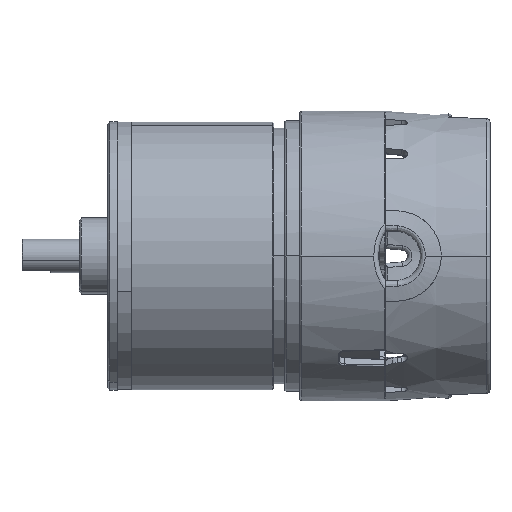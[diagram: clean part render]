
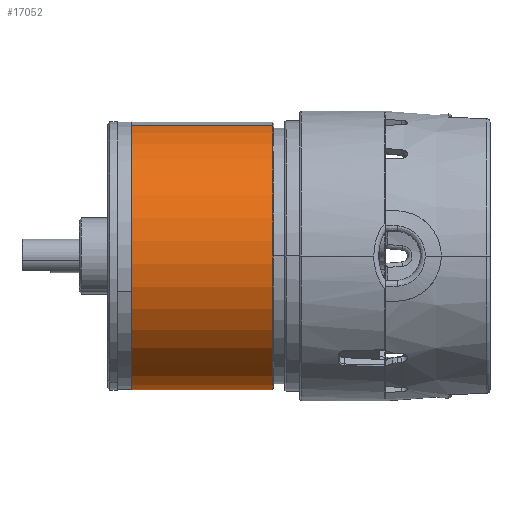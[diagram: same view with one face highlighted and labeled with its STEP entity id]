
A CAD part, left-side view. The second image highlights one B-rep face of the part: STEP entity #17052.
In plain terms, the highlighted cylindrical face has radius 28.2 mm (diameter 56.4 mm), a partial arc.
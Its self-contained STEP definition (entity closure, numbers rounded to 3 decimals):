
#806 = CARTESIAN_POINT ( 'NONE',  ( 0., 14.8, -28.2 ) ) ;
#4143 = VERTEX_POINT ( 'NONE', #39930 ) ;
#6877 = EDGE_CURVE ( 'NONE', #4143, #47902, #59167, .T. ) ;
#15063 = FACE_OUTER_BOUND ( 'NONE', #60418, .T. ) ;
#16078 = DIRECTION ( 'NONE',  ( 0., 0., -1. ) ) ;
#17052 = ADVANCED_FACE ( 'NONE', ( #15063 ), #36959, .T. ) ;
#19586 = LINE ( 'NONE', #40152, #51039 ) ;
#22105 = EDGE_CURVE ( 'NONE', #43466, #47902, #19586, .T. ) ;
#24655 = CARTESIAN_POINT ( 'NONE',  ( 0., -15., 0. ) ) ;
#24715 = DIRECTION ( 'NONE',  ( 0., -1., 0. ) ) ;
#25966 = ORIENTED_EDGE ( 'NONE', *, *, #22105, .F. ) ;
#28669 = CARTESIAN_POINT ( 'NONE',  ( 0., -15., 28.2 ) ) ;
#29299 = AXIS2_PLACEMENT_3D ( 'NONE', #52747, #63017, #16078 ) ;
#31570 = LINE ( 'NONE', #46689, #38873 ) ;
#34263 = VERTEX_POINT ( 'NONE', #806 ) ;
#34294 = ORIENTED_EDGE ( 'NONE', *, *, #41769, .T. ) ;
#34526 = CIRCLE ( 'NONE', #54206, 28.2 ) ;
#36959 = CYLINDRICAL_SURFACE ( 'NONE', #29299, 28.2 ) ;
#37649 = CARTESIAN_POINT ( 'NONE',  ( 0., 14.8, 28.2 ) ) ;
#38372 = AXIS2_PLACEMENT_3D ( 'NONE', #24655, #62917, #45582 ) ;
#38873 = VECTOR ( 'NONE', #41886, 1000. ) ;
#39125 = DIRECTION ( 'NONE',  ( 0., -1., 0. ) ) ;
#39467 = CARTESIAN_POINT ( 'NONE',  ( 0., 14.8, 0. ) ) ;
#39930 = CARTESIAN_POINT ( 'NONE',  ( 0., -15., -28.2 ) ) ;
#40152 = CARTESIAN_POINT ( 'NONE',  ( 0., 15., 28.2 ) ) ;
#41769 = EDGE_CURVE ( 'NONE', #34263, #4143, #31570, .T. ) ;
#41886 = DIRECTION ( 'NONE',  ( 0., -1., 0. ) ) ;
#42159 = ORIENTED_EDGE ( 'NONE', *, *, #6877, .T. ) ;
#43466 = VERTEX_POINT ( 'NONE', #37649 ) ;
#45582 = DIRECTION ( 'NONE',  ( 0., 0., 1. ) ) ;
#46689 = CARTESIAN_POINT ( 'NONE',  ( 0., 15., -28.2 ) ) ;
#47902 = VERTEX_POINT ( 'NONE', #28669 ) ;
#51039 = VECTOR ( 'NONE', #39125, 1000. ) ;
#52747 = CARTESIAN_POINT ( 'NONE',  ( 0., 15., 0. ) ) ;
#54206 = AXIS2_PLACEMENT_3D ( 'NONE', #39467, #24715, #55233 ) ;
#55233 = DIRECTION ( 'NONE',  ( 0., 0., 1. ) ) ;
#59167 = CIRCLE ( 'NONE', #38372, 28.2 ) ;
#60231 = ORIENTED_EDGE ( 'NONE', *, *, #60442, .T. ) ;
#60418 = EDGE_LOOP ( 'NONE', ( #25966, #60231, #34294, #42159 ) ) ;
#60442 = EDGE_CURVE ( 'NONE', #43466, #34263, #34526, .T. ) ;
#62917 = DIRECTION ( 'NONE',  ( 0., 1., 0. ) ) ;
#63017 = DIRECTION ( 'NONE',  ( 0., -1., 0. ) ) ;
